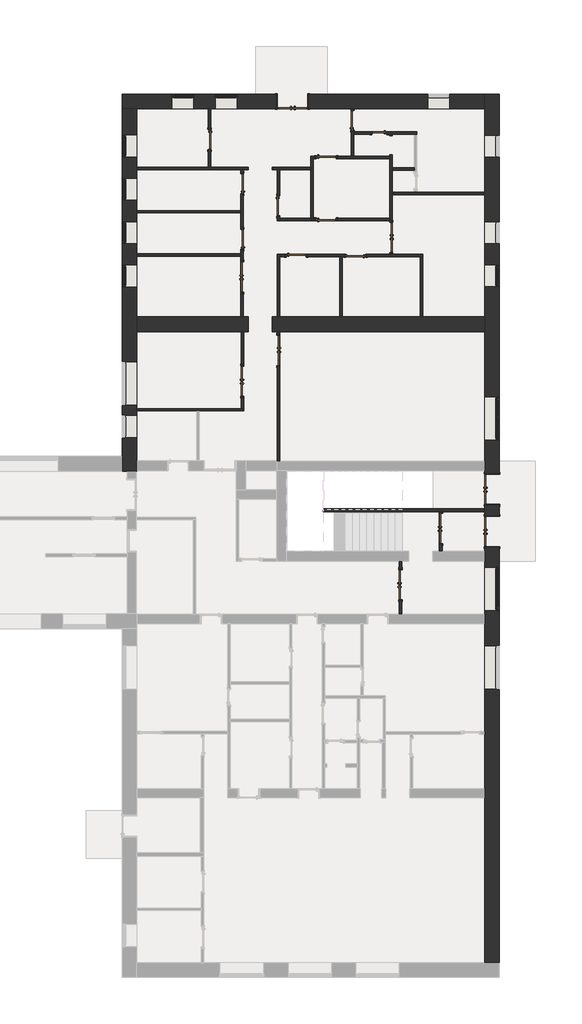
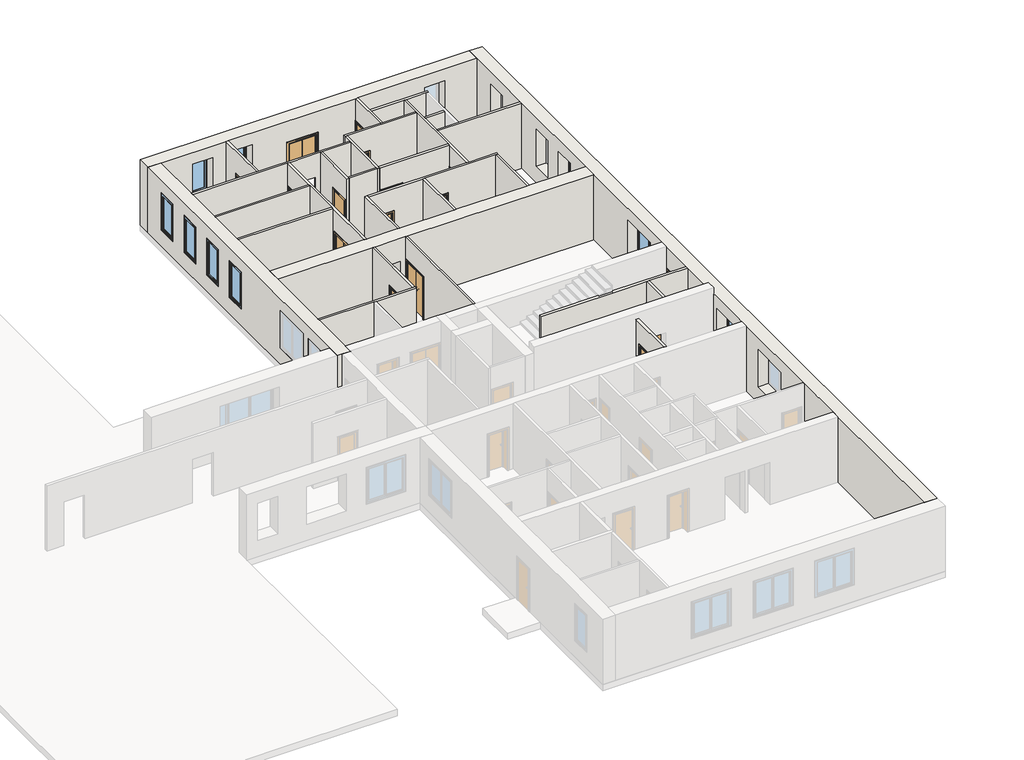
# One storey, part 5 of 10: 29 walls, 19 doors, 9 windows.
"""IFC4 building model written with IfcOpenShell, lengths in millimetres."""

from ifc_helpers import new_model, si_unit, frame, origin, origin_with_axes, place, context, project, spatial, polyline, outline, extrude, faceted_brep, transform, mapped, element, save
from components import door_6cda5d05, door_47037448, door_87bbec6c, door_70e842ad, door_8e506e8c, door_71a0a05f, door_2465b851, window_825c4489, window_630a9bb4, window_74172d11, window_310a172f

model = new_model("IFC4")

# Units and contexts
model_context = context("Model", 3, world=origin())
ifc_project = project(units=[si_unit("LENGTHUNIT", "METRE", prefix="MILLI")], contexts=[model_context])

# Site, building, storey
site = spatial("IfcSite", under=ifc_project)
building = spatial("IfcBuilding", under=site)
storey = spatial("IfcBuildingStorey", under=building, Name="1 этаж", Elevation=0.0)

# Doors
placement = place(None, origin())
door_shape = door_6cda5d05(model_context)
element("IfcDoor", 1, ObjectType="Наружная дверь 2-Навесная - Один проем наружу с порогом - 31173-2003 : ДСН ДКН М2 2100-1300 ГОСТ 31173-2003", at=placement, inside=storey, context=model_context, shape_type="MappedRepresentation", body=[
    mapped(door_shape, transform((16520.1759979, 1454.6370105, 0.0), x_axis=(0.0, -1.0, 0.0), y_axis=(1.0, 0.0, 0.0), z_axis=(0.0, 0.0, 1.0))),
])
element("IfcDoor", 2, ObjectType="Наружная дверь 2-Навесная - Один проем наружу с порогом - 31173-2003 : ДСН ДКН М2 2100-1300 ГОСТ 31173-2003", at=placement, inside=storey, context=model_context, shape_type="MappedRepresentation", body=[
    mapped(door_shape, transform((18215.1759979, 3817.1370105, 0.0), x_axis=(0.0, -1.0, 0.0), y_axis=(1.0, 0.0, 0.0), z_axis=(0.0, 0.0, 1.0))),
])
door_2_shape = door_47037448(model_context)
element("IfcDoor", 3, ObjectType="Наружная дверь 2-Навесная - Один проем наружу с порогом - 31173-2003 : ДСН ДКН М2 2100-1300 ГОСТ 31173-2003", at=placement, inside=storey, context=model_context, shape_type="MappedRepresentation", body=[
    mapped(door_2_shape, transform((20362.6759979, 3685.8870105, 0.0), x_axis=(0.0, -1.0, 0.0), y_axis=(1.0, 0.0, 0.0), z_axis=(0.0, 0.0, 1.0))),
])
element("IfcDoor", 4, ObjectType="Наружная дверь 2-Навесная - Один проем наружу с порогом - 31173-2003 : ДСН ДКН М2 2100-1300 ГОСТ 31173-2003", at=placement, inside=storey, context=model_context, shape_type="MappedRepresentation", body=[
    mapped(door_2_shape, transform((20362.6759979, 5457.1370105, 0.0), x_axis=(0.0, -1.0, 0.0), y_axis=(1.0, 0.0, 0.0), z_axis=(0.0, 0.0, 1.0))),
])
element("IfcDoor", 5, ObjectType="Наружная дверь 2-Навесная - Один проем наружу с порогом - 31173-2003 : ДСН ДКН М2 2100-1300 ГОСТ 31173-2003", at=placement, inside=storey, context=model_context, shape_type="MappedRepresentation", body=[
    mapped(door_2_shape, transform((11987.6759979, 21729.6370105, 0.0), x_axis=(1.0, 0.0, 0.0), y_axis=(0.0, 1.0, 0.0), z_axis=(0.0, 0.0, 1.0))),
])
door_3_shape = door_87bbec6c(model_context)
element("IfcDoor", 6, ObjectType="Внутренняя дверь 1-Навесная - 6629-88 : ДГ 21-7  ГОСТ 6629-88", at=placement, inside=storey, context=model_context, shape_type="MappedRepresentation", body=[
    mapped(door_3_shape, transform((15627.6759979, 20404.6370105, 0.0), x_axis=(-1.0, 0.0, 0.0), y_axis=(0.0, -1.0, 0.0), z_axis=(0.0, 0.0, 1.0))),
])
door_4_shape = door_70e842ad(model_context)
element("IfcDoor", 7, ObjectType="Внутренняя дверь 1-Навесная - 6629-88 : ДГ 21-9Л  ГОСТ 6629-88", at=placement, inside=storey, context=model_context, shape_type="MappedRepresentation", body=[
    mapped(door_4_shape, transform((12147.6759979, 15264.6370105, 0.0), x_axis=(-1.0, 0.0, 0.0), y_axis=(0.0, -1.0, 0.0), z_axis=(0.0, 0.0, 1.0))),
])
element("IfcDoor", 8, ObjectType="Внутренняя дверь 1-Навесная - 6629-88 : ДГ 21-9Л  ГОСТ 6629-88", at=placement, inside=storey, context=model_context, shape_type="MappedRepresentation", body=[
    mapped(door_4_shape, transform((14647.6759979, 15264.6370105, 0.0), x_axis=(1.0, 0.0, 0.0), y_axis=(0.0, 1.0, 0.0), z_axis=(0.0, 0.0, 1.0))),
])
element("IfcDoor", 9, ObjectType="Внутренняя дверь 1-Навесная - 6629-88 : ДГ 21-9Л  ГОСТ 6629-88", at=placement, inside=storey, context=model_context, shape_type="MappedRepresentation", body=[
    mapped(door_4_shape, transform((13407.6759979, 19384.6370105, 0.0), x_axis=(-1.0, 0.0, 0.0), y_axis=(0.0, -1.0, 0.0), z_axis=(0.0, 0.0, 1.0))),
])
door_5_shape = door_8e506e8c(model_context)
element("IfcDoor", 10, ObjectType="Внутренняя дверь 1-Навесная - 6629-88 : ДГ 21-9Л  ГОСТ 6629-88", at=placement, inside=storey, context=model_context, shape_type="MappedRepresentation", body=[
    mapped(door_5_shape, transform((13407.6759979, 16784.6370105, 0.0), x_axis=(-1.0, 0.0, 0.0), y_axis=(0.0, -1.0, 0.0), z_axis=(0.0, 0.0, 1.0))),
])
element("IfcDoor", 11, ObjectType="Внутренняя дверь 1-Навесная - 6629-88 : ДГ 21-9Л  ГОСТ 6629-88", at=placement, inside=storey, context=model_context, shape_type="MappedRepresentation", body=[
    mapped(door_5_shape, transform((11397.6759979, 17344.6370105, 0.0), x_axis=(0.0, 1.0, 0.0), y_axis=(-1.0, 0.0, 0.0), z_axis=(0.0, 0.0, 1.0))),
])
element("IfcDoor", 12, ObjectType="Внутренняя дверь 1-Навесная - 6629-88 : ДГ 21-9Л  ГОСТ 6629-88", at=placement, inside=storey, context=model_context, shape_type="MappedRepresentation", body=[
    mapped(door_5_shape, transform((9877.6759979, 18284.6370105, 0.0), x_axis=(0.0, -1.0, 0.0), y_axis=(1.0, 0.0, 0.0), z_axis=(0.0, 0.0, 1.0))),
])
element("IfcDoor", 13, ObjectType="Внутренняя дверь 1-Навесная - 6629-88 : ДГ 21-9Л  ГОСТ 6629-88", at=placement, inside=storey, context=model_context, shape_type="MappedRepresentation", body=[
    mapped(door_5_shape, transform((9877.6759979, 15944.6370105, 0.0), x_axis=(0.0, -1.0, 0.0), y_axis=(1.0, 0.0, 0.0), z_axis=(0.0, 0.0, 1.0))),
])
door_6_shape = door_71a0a05f(model_context)
element("IfcDoor", 14, ObjectType="Внутренняя дверь 1-Навесная - 6629-88 : ДГ 21-9  ГОСТ 6629-88", at=placement, inside=storey, context=model_context, shape_type="MappedRepresentation", body=[
    mapped(door_6_shape, transform((14507.6759979, 20944.6370105, 0.0), x_axis=(0.0, 1.0, 0.0), y_axis=(-1.0, 0.0, 0.0), z_axis=(0.0, 0.0, 1.0))),
])
element("IfcDoor", 15, ObjectType="Внутренняя дверь 1-Навесная - 6629-88 : ДГ 21-9  ГОСТ 6629-88", at=placement, inside=storey, context=model_context, shape_type="MappedRepresentation", body=[
    mapped(door_6_shape, transform((8507.6759979, 20124.6370105, 0.0), x_axis=(0.0, -1.0, 0.0), y_axis=(1.0, 0.0, 0.0), z_axis=(0.0, 0.0, 1.0))),
])
door_7_shape = door_2465b851(model_context)
element("IfcDoor", 16, ObjectType="Наружная дверь 2-Навесная - Один проем наружу с порогом - 31173-2003 : ДСН ДКН М2 2100-1300 ГОСТ 31173-2003", at=placement, inside=storey, context=model_context, shape_type="MappedRepresentation", body=[
    mapped(door_7_shape, transform((11397.6759979, 11284.6370105, 0.0), x_axis=(0.0, 1.0, 0.0), y_axis=(-1.0, 0.0, 0.0), z_axis=(0.0, 0.0, 1.0))),
])
element("IfcDoor", 17, ObjectType="Наружная дверь 2-Навесная - Один проем наружу с порогом - 31173-2003 : ДСН ДКН М2 2100-1300 ГОСТ 31173-2003", at=placement, inside=storey, context=model_context, shape_type="MappedRepresentation", body=[
    mapped(door_7_shape, transform((9887.6759979, 9994.6370105, 0.0), x_axis=(0.0, -1.0, 0.0), y_axis=(1.0, 0.0, 0.0), z_axis=(0.0, 0.0, 1.0))),
])
element("IfcDoor", 18, ObjectType="Наружная дверь 2-Навесная - Один проем наружу с порогом - 31173-2003 : ДСН ДКН М2 2100-1300 ГОСТ 31173-2003", at=placement, inside=storey, context=model_context, shape_type="MappedRepresentation", body=[
    mapped(door_7_shape, transform((9877.6759979, 14364.6370105, 0.0), x_axis=(0.0, -1.0, 0.0), y_axis=(1.0, 0.0, 0.0), z_axis=(0.0, 0.0, 1.0))),
])
element("IfcDoor", 19, ObjectType="Наружная дверь 2-Навесная - Один проем наружу с порогом - 31173-2003 : ДСН ДКН М2 2100-1300 ГОСТ 31173-2003", at=placement, inside=storey, context=model_context, shape_type="MappedRepresentation", body=[
    mapped(door_7_shape, transform((16127.6759979, 16024.6370105, 0.0), x_axis=(0.0, 1.0, 0.0), y_axis=(-1.0, 0.0, 0.0), z_axis=(0.0, 0.0, 1.0))),
])

# Walls
element("IfcWall", 20, ObjectType="ADSK_Внутренняя_Кирпич_610", at=placement, inside=storey, context=model_context, shape_type="Brep", body=[
    faceted_brep([(20667.6759979, -14415.3629895, 3200.0), (20667.6759979, -14415.3629895, 0.0), (20667.6759979, 3015.8870105, 0.0), (20667.6759979, 3015.8870105, 2120.0), (20667.6759979, 4355.8870105, 2120.0), (20667.6759979, 4355.8870105, 0.0), (20667.6759979, 4787.1370105, 0.0), (20667.6759979, 4787.1370105, 2120.0), (20667.6759979, 6127.1370105, 2120.0), (20667.6759979, 6127.1370105, 0.0), (20667.6759979, 22034.6370105, 0.0), (20667.6759979, 22034.6370105, 3200.0), (20667.6759979, 19384.6370105, 800.0), (20667.6759979, 19384.6370105, 2620.0), (20667.6759979, 20314.6370105, 2620.0), (20667.6759979, 20314.6370105, 800.0), (20667.6759979, 15749.6370105, 800.0), (20667.6759979, 15749.6370105, 2620.0), (20667.6759979, 16679.6370105, 2620.0), (20667.6759979, 16679.6370105, 800.0), (20667.6759979, 13949.6370105, 800.0), (20667.6759979, 13949.6370105, 2620.0), (20667.6759979, 14879.6370105, 2620.0), (20667.6759979, 14879.6370105, 800.0), (20667.6759979, 9349.6370105, 800.0), (20667.6759979, 7519.6370105, 800.0), (20667.6759979, 7519.6370105, 2620.0), (20667.6759979, 9349.6370105, 2620.0), (20667.6759979, 359.6370105, 800.0), (20667.6759979, 359.6370105, 2620.0), (20667.6759979, 2189.6370105, 2620.0), (20667.6759979, 2189.6370105, 800.0), (20667.6759979, -2940.3629895, 800.0), (20667.6759979, -2940.3629895, 2620.0), (20667.6759979, -1110.3629895, 2620.0), (20667.6759979, -1110.3629895, 800.0), (20057.6759979, -14415.3629895, 0.0), (20057.6759979, -14415.3629895, 3200.0), (20057.6759979, -7495.3629895, 3200.0), (20057.6759979, -7115.3629895, 3200.0), (20057.6759979, -4815.3629895, 3200.0), (20057.6759979, -4715.3629895, 3200.0), (20057.6759979, -175.3629895, 3200.0), (20057.6759979, 204.6370105, 3200.0), (20057.6759979, 4519.5648158, 3200.0), (20057.6759979, 4644.5648158, 3200.0), (20057.6759979, 6244.6370105, 3200.0), (20057.6759979, 6624.6370105, 3200.0), (20057.6759979, 12064.6370105, 3200.0), (20057.6759979, 12704.6370105, 3200.0), (20057.6759979, 17824.6370105, 3200.0), (20057.6759979, 17924.6370105, 3200.0), (20057.6759979, 21424.6370105, 3200.0), (20057.6759979, 22034.6370105, 3200.0), (20057.6759979, 22034.6370105, 0.0), (20057.6759979, 21424.6370105, 0.0), (20057.6759979, 17924.6370105, 0.0), (20057.6759979, 17824.6370105, 0.0), (20057.6759979, 12704.6370105, 0.0), (20057.6759979, 12064.6370105, 0.0), (20057.6759979, 6624.6370105, 0.0), (20057.6759979, 6244.6370105, 0.0), (20057.6759979, 6127.1370105, 0.0), (20057.6759979, 6127.1370105, 2120.0), (20057.6759979, 4787.1370105, 2120.0), (20057.6759979, 4787.1370105, 0.0), (20057.6759979, 4644.5648158, 0.0), (20057.6759979, 4519.5648158, 0.0), (20057.6759979, 4355.8870105, 0.0), (20057.6759979, 4355.8870105, 2120.0), (20057.6759979, 3015.8870105, 2120.0), (20057.6759979, 3015.8870105, 0.0), (20057.6759979, 2864.6370105, 0.0), (20057.6759979, 2444.6370105, 0.0), (20057.6759979, 204.6370105, 0.0), (20057.6759979, -175.3629895, 0.0), (20057.6759979, -4715.3629895, 0.0), (20057.6759979, -4815.3629895, 0.0), (20057.6759979, -7115.3629895, 0.0), (20057.6759979, -7495.3629895, 0.0), (20057.6759979, 19384.6370105, 800.0), (20057.6759979, 20314.6370105, 800.0), (20057.6759979, 20314.6370105, 2620.0), (20057.6759979, 19384.6370105, 2620.0), (20057.6759979, 15749.6370105, 800.0), (20057.6759979, 16679.6370105, 800.0), (20057.6759979, 16679.6370105, 2620.0), (20057.6759979, 15749.6370105, 2620.0), (20057.6759979, 13949.6370105, 800.0), (20057.6759979, 14879.6370105, 800.0), (20057.6759979, 14879.6370105, 2620.0), (20057.6759979, 13949.6370105, 2620.0), (20057.6759979, 9349.6370105, 800.0), (20057.6759979, 9349.6370105, 2620.0), (20057.6759979, 7519.6370105, 2620.0), (20057.6759979, 7519.6370105, 800.0), (20057.6759979, 359.6370105, 800.0), (20057.6759979, 2189.6370105, 800.0), (20057.6759979, 2189.6370105, 2620.0), (20057.6759979, 359.6370105, 2620.0), (20057.6759979, -2940.3629895, 800.0), (20057.6759979, -1110.3629895, 800.0), (20057.6759979, -1110.3629895, 2620.0), (20057.6759979, -2940.3629895, 2620.0)], [[[0, 1, 2, 3, 4, 5, 6, 7, 8, 9, 10, 11], [12, 13, 14, 15], [16, 17, 18, 19], [20, 21, 22, 23], [24, 25, 26, 27], [28, 29, 30, 31], [32, 33, 34, 35]], [[36, 37, 38, 39, 40, 41, 42, 43, 44, 45, 46, 47, 48, 49, 50, 51, 52, 53, 54, 55, 56, 57, 58, 59, 60, 61, 62, 63, 64, 65, 66, 67, 68, 69, 70, 71, 72, 73, 74, 75, 76, 77, 78, 79], [80, 81, 82, 83], [84, 85, 86, 87], [88, 89, 90, 91], [92, 93, 94, 95], [96, 97, 98, 99], [100, 101, 102, 103]], [[1, 36, 79, 78, 77, 76, 75, 74, 73, 72, 71, 2]], [[54, 10, 9, 62, 61, 60, 59, 58, 57, 56, 55]], [[5, 68, 67, 66, 65, 6]], [[1, 0, 37, 36]], [[11, 10, 54, 53]], [[70, 3, 2, 71]], [[3, 70, 69, 4]], [[4, 69, 68, 5]], [[64, 7, 6, 65]], [[7, 64, 63, 8]], [[8, 63, 62, 9]], [[13, 12, 80, 83]], [[14, 13, 83, 82]], [[15, 14, 82, 81]], [[12, 15, 81, 80]], [[17, 16, 84, 87]], [[18, 17, 87, 86]], [[19, 18, 86, 85]], [[16, 19, 85, 84]], [[21, 20, 88, 91]], [[22, 21, 91, 90]], [[23, 22, 90, 89]], [[20, 23, 89, 88]], [[93, 92, 24, 27]], [[94, 93, 27, 26]], [[95, 94, 26, 25]], [[92, 95, 25, 24]], [[29, 28, 96, 99]], [[30, 29, 99, 98]], [[31, 30, 98, 97]], [[28, 31, 97, 96]], [[33, 32, 100, 103]], [[34, 33, 103, 102]], [[35, 34, 102, 101]], [[32, 35, 101, 100]], [[11, 53, 52, 51, 50, 49, 48, 47, 46, 45, 44, 43, 42, 41, 40, 39, 38, 37, 0]]]),
])
element("IfcWall", 21, ObjectType="ADSK_Внутренняя_Кирпич_610", at=placement, inside=storey, context=model_context, shape_type="Brep", body=[
    faceted_brep([(20057.6759979, 22034.6370105, 3200.0), (20057.6759979, 22034.6370105, 0.0), (12657.6759979, 22034.6370105, 0.0), (12657.6759979, 22034.6370105, 2120.0), (11317.6759979, 22034.6370105, 2120.0), (11317.6759979, 22034.6370105, 0.0), (4837.6759979, 22034.6370105, 0.0), (4837.6759979, 22034.6370105, 3200.0), (18587.6759979, 22034.6370105, 800.0), (18587.6759979, 22034.6370105, 2620.0), (17657.6759979, 22034.6370105, 2620.0), (17657.6759979, 22034.6370105, 800.0), (8742.6759979, 22034.6370105, 800.0), (9672.6759979, 22034.6370105, 800.0), (9672.6759979, 22034.6370105, 2620.0), (8742.6759979, 22034.6370105, 2620.0), (6922.6759979, 22034.6370105, 800.0), (7852.6759979, 22034.6370105, 800.0), (7852.6759979, 22034.6370105, 2620.0), (6922.6759979, 22034.6370105, 2620.0), (20057.6759979, 21424.6370105, 0.0), (20057.6759979, 21424.6370105, 3200.0), (14557.6759979, 21424.6370105, 3200.0), (14457.6759979, 21424.6370105, 3200.0), (8557.6759979, 21424.6370105, 3200.0), (8457.6759979, 21424.6370105, 3200.0), (5447.6759979, 21424.6370105, 3200.0), (4837.6759979, 21424.6370105, 3200.0), (4837.6759979, 21424.6370105, 0.0), (5447.6759979, 21424.6370105, 0.0), (8457.6759979, 21424.6370105, 0.0), (8557.6759979, 21424.6370105, 0.0), (11317.6759979, 21424.6370105, 0.0), (11317.6759979, 21424.6370105, 2120.0), (12657.6759979, 21424.6370105, 2120.0), (12657.6759979, 21424.6370105, 0.0), (14457.6759979, 21424.6370105, 0.0), (14557.6759979, 21424.6370105, 0.0), (18587.6759979, 21424.6370105, 800.0), (17657.6759979, 21424.6370105, 800.0), (17657.6759979, 21424.6370105, 2620.0), (18587.6759979, 21424.6370105, 2620.0), (8742.6759979, 21424.6370105, 800.0), (8742.6759979, 21424.6370105, 2620.0), (9672.6759979, 21424.6370105, 2620.0), (9672.6759979, 21424.6370105, 800.0), (6922.6759979, 21424.6370105, 800.0), (6922.6759979, 21424.6370105, 2620.0), (7852.6759979, 21424.6370105, 2620.0), (7852.6759979, 21424.6370105, 800.0)], [[[0, 1, 2, 3, 4, 5, 6, 7], [8, 9, 10, 11], [12, 13, 14, 15], [16, 17, 18, 19]], [[20, 21, 22, 23, 24, 25, 26, 27, 28, 29, 30, 31, 32, 33, 34, 35, 36, 37], [38, 39, 40, 41], [42, 43, 44, 45], [46, 47, 48, 49]], [[1, 20, 37, 36, 35, 2]], [[28, 6, 5, 32, 31, 30, 29]], [[1, 0, 21, 20]], [[7, 6, 28, 27]], [[34, 3, 2, 35]], [[3, 34, 33, 4]], [[4, 33, 32, 5]], [[9, 8, 38, 41]], [[10, 9, 41, 40]], [[11, 10, 40, 39]], [[8, 11, 39, 38]], [[43, 42, 12, 15]], [[44, 43, 15, 14]], [[45, 44, 14, 13]], [[42, 45, 13, 12]], [[47, 46, 16, 19]], [[48, 47, 19, 18]], [[49, 48, 18, 17]], [[46, 49, 17, 16]], [[0, 7, 27, 26, 25, 24, 23, 22, 21]]]),
])
element("IfcWall", 22, ObjectType="ADSK_Внутренняя_Кирпич_610", at=placement, inside=storey, context=model_context, shape_type="Brep", body=[
    faceted_brep([(4837.6759979, 21424.6370105, 0.0), (4837.6759979, 6834.6370105, 0.0), (4837.6759979, 6224.6370105, 0.0), (4837.6759979, 6224.6370105, 3200.0), (4837.6759979, 6834.6370105, 3200.0), (4837.6759979, 21424.6370105, 3200.0), (4837.6759979, 19399.6370105, 800.0), (4837.6759979, 20329.6370105, 800.0), (4837.6759979, 20329.6370105, 2620.0), (4837.6759979, 19399.6370105, 2620.0), (4837.6759979, 18509.6370105, 800.0), (4837.6759979, 18509.6370105, 2620.0), (4837.6759979, 17579.6370105, 2620.0), (4837.6759979, 17579.6370105, 800.0), (4837.6759979, 16689.6370105, 800.0), (4837.6759979, 16689.6370105, 2620.0), (4837.6759979, 15759.6370105, 2620.0), (4837.6759979, 15759.6370105, 800.0), (4837.6759979, 13939.6370105, 800.0), (4837.6759979, 14869.6370105, 800.0), (4837.6759979, 14869.6370105, 2620.0), (4837.6759979, 13939.6370105, 2620.0), (4837.6759979, 8559.6370105, 800.0), (4837.6759979, 8559.6370105, 2620.0), (4837.6759979, 7629.6370105, 2620.0), (4837.6759979, 7629.6370105, 800.0), (4837.6759979, 10809.6370105, 800.0), (4837.6759979, 10809.6370105, 2620.0), (4837.6759979, 8979.6370105, 2620.0), (4837.6759979, 8979.6370105, 800.0), (5447.6759979, 21424.6370105, 0.0), (5447.6759979, 21424.6370105, 3200.0), (5447.6759979, 18974.6370105, 3200.0), (5447.6759979, 18874.6370105, 3200.0), (5447.6759979, 17154.6370105, 3200.0), (5447.6759979, 17054.6370105, 3200.0), (5447.6759979, 15334.6370105, 3200.0), (5447.6759979, 15234.6370105, 3200.0), (5447.6759979, 12704.6370105, 3200.0), (5447.6759979, 12064.6370105, 3200.0), (5447.6759979, 8844.6370105, 3200.0), (5447.6759979, 8744.6370105, 3200.0), (5447.6759979, 6644.6370105, 3200.0), (5447.6759979, 6244.6370105, 3200.0), (5447.6759979, 6224.6370105, 3200.0), (5447.6759979, 6224.6370105, 0.0), (5447.6759979, 6244.6370105, 0.0), (5447.6759979, 6644.6370105, 0.0), (5447.6759979, 8744.6370105, 0.0), (5447.6759979, 8844.6370105, 0.0), (5447.6759979, 12064.6370105, 0.0), (5447.6759979, 12704.6370105, 0.0), (5447.6759979, 15234.6370105, 0.0), (5447.6759979, 15334.6370105, 0.0), (5447.6759979, 17054.6370105, 0.0), (5447.6759979, 17154.6370105, 0.0), (5447.6759979, 18874.6370105, 0.0), (5447.6759979, 18974.6370105, 0.0), (5447.6759979, 19399.6370105, 800.0), (5447.6759979, 19399.6370105, 2620.0), (5447.6759979, 20329.6370105, 2620.0), (5447.6759979, 20329.6370105, 800.0), (5447.6759979, 18509.6370105, 800.0), (5447.6759979, 17579.6370105, 800.0), (5447.6759979, 17579.6370105, 2620.0), (5447.6759979, 18509.6370105, 2620.0), (5447.6759979, 16689.6370105, 800.0), (5447.6759979, 15759.6370105, 800.0), (5447.6759979, 15759.6370105, 2620.0), (5447.6759979, 16689.6370105, 2620.0), (5447.6759979, 13939.6370105, 800.0), (5447.6759979, 13939.6370105, 2620.0), (5447.6759979, 14869.6370105, 2620.0), (5447.6759979, 14869.6370105, 800.0), (5447.6759979, 8559.6370105, 800.0), (5447.6759979, 7629.6370105, 800.0), (5447.6759979, 7629.6370105, 2620.0), (5447.6759979, 8559.6370105, 2620.0), (5447.6759979, 10809.6370105, 800.0), (5447.6759979, 8979.6370105, 800.0), (5447.6759979, 8979.6370105, 2620.0), (5447.6759979, 10809.6370105, 2620.0), (5427.6759979, 6224.6370105, 0.0), (5047.6759979, 6224.6370105, 0.0), (5427.6759979, 6224.6370105, 3200.0), (5047.6759979, 6224.6370105, 3200.0)], [[[0, 1, 2, 3, 4, 5], [6, 7, 8, 9], [10, 11, 12, 13], [14, 15, 16, 17], [18, 19, 20, 21], [22, 23, 24, 25], [26, 27, 28, 29]], [[30, 31, 32, 33, 34, 35, 36, 37, 38, 39, 40, 41, 42, 43, 44, 45, 46, 47, 48, 49, 50, 51, 52, 53, 54, 55, 56, 57], [58, 59, 60, 61], [62, 63, 64, 65], [66, 67, 68, 69], [70, 71, 72, 73], [74, 75, 76, 77], [78, 79, 80, 81]], [[2, 1, 0, 30, 57, 56, 55, 54, 53, 52, 51, 50, 49, 48, 47, 46, 45, 82, 83]], [[0, 5, 31, 30]], [[3, 2, 83, 82, 45, 44, 84, 85]], [[59, 58, 6, 9]], [[60, 59, 9, 8]], [[61, 60, 8, 7]], [[58, 61, 7, 6]], [[11, 10, 62, 65]], [[12, 11, 65, 64]], [[13, 12, 64, 63]], [[10, 13, 63, 62]], [[15, 14, 66, 69]], [[16, 15, 69, 68]], [[17, 16, 68, 67]], [[14, 17, 67, 66]], [[71, 70, 18, 21]], [[72, 71, 21, 20]], [[73, 72, 20, 19]], [[70, 73, 19, 18]], [[23, 22, 74, 77]], [[24, 23, 77, 76]], [[25, 24, 76, 75]], [[22, 25, 75, 74]], [[27, 26, 78, 81]], [[28, 27, 81, 80]], [[29, 28, 80, 79]], [[26, 29, 79, 78]], [[5, 4, 3, 85, 84, 44, 43, 42, 41, 40, 39, 38, 37, 36, 35, 34, 33, 32, 31]]]),
])
element("IfcWall", 23, ObjectType="ADSK_Внутренняя_Перегородка_75_25x2", at=placement, inside=storey, context=model_context, shape_type="SweptSolid", body=[
    extrude(outline(polyline([(2444.6370105, 3200.0), (2444.6370105, 0.0), (2124.6370105, 0.0), (2124.6370105, 2120.0), (784.6370105, 2120.0), (784.6370105, 0.0), (204.6370105, 0.0), (204.6370105, 3200.0), (2444.6370105, 3200.0)])), frame((16457.6759979, 0.0, 0.0), z_axis=(1.0, 0.0, 0.0), x_axis=(0.0, 1.0, 0.0)), (0.0, 0.0, 1.0), 125.0),
])
element("IfcWall", 24, ObjectType="ADSK_Внутренняя_Перегородка_125", at=placement, inside=storey, context=model_context, shape_type="SweptSolid", body=[
    extrude(outline(polyline([(2864.6370105, 0.0), (2864.6370105, 3200.0), (4519.5648158, 3200.0), (4519.5648158, 0.0), (4487.1370105, 0.0), (4487.1370105, 2120.0), (3147.1370105, 2120.0), (3147.1370105, 0.0), (2864.6370105, 0.0)])), frame((18152.6759979, 0.0, 0.0), z_axis=(1.0, 0.0, 0.0), x_axis=(0.0, 1.0, 0.0)), (0.0, 0.0, 1.0), 125.0),
])
element("IfcWall", 25, ObjectType="ADSK_Внутренняя_Перегородка_125", at=placement, inside=storey, context=model_context, shape_type="Brep", body=[
    faceted_brep([(20057.6759979, 4644.5648158, 0.0), (13288.3708722, 4644.5648158, 0.0), (13288.3708722, 4644.5648158, 3200.0), (16582.6759979, 4644.5648158, 3200.0), (20057.6759979, 4644.5648158, 3200.0), (20057.6759979, 4519.5648158, 0.0), (20057.6759979, 4519.5648158, 3200.0), (18277.6759979, 4519.5648158, 3200.0), (18152.6759979, 4519.5648158, 3200.0), (16582.6759979, 4519.5648158, 3200.0), (13288.3708722, 4519.5648158, 3200.0), (13288.3708722, 4519.5648158, 0.0), (18152.6759979, 4519.5648158, 0.0), (18277.6759979, 4519.5648158, 0.0)], [[[0, 1, 2, 3, 4]], [[5, 6, 7, 8, 9, 10, 11, 12, 13]], [[1, 0, 5, 13, 12, 11]], [[2, 1, 11, 10]], [[0, 4, 6, 5]], [[3, 2, 10, 9]], [[4, 3, 9, 8, 7, 6]]]),
])
element("IfcWall", 26, ObjectType="ADSK_Внутренняя_Перегородка_100", at=placement, inside=storey, context=model_context, shape_type="Brep", body=[
    faceted_brep([(5447.6759979, 8744.6370105, 0.0), (7977.7887319, 8744.6370105, 0.0), (8077.7887319, 8744.6370105, 0.0), (9937.6759979, 8744.6370105, 0.0), (9937.6759979, 8744.6370105, 3200.0), (8077.7887319, 8744.6370105, 3200.0), (7977.7887319, 8744.6370105, 3200.0), (5447.6759979, 8744.6370105, 3200.0), (5447.6759979, 8844.6370105, 0.0), (5447.6759979, 8844.6370105, 3200.0), (9837.6759979, 8844.6370105, 3200.0), (9937.6759979, 8844.6370105, 3200.0), (9937.6759979, 8844.6370105, 0.0), (9837.6759979, 8844.6370105, 0.0)], [[[0, 1, 2, 3, 4, 5, 6, 7]], [[8, 9, 10, 11, 12, 13]], [[3, 2, 1, 0, 8, 13, 12]], [[0, 7, 9, 8]], [[4, 3, 12, 11]], [[7, 6, 5, 4, 11, 10, 9]]]),
])
element("IfcWall", 27, ObjectType="ADSK_Внутренняя_Перегородка_100", at=placement, inside=storey, context=model_context, shape_type="SweptSolid", body=[
    extrude(outline(polyline([(8844.6370105, 0.0), (8844.6370105, 3200.0), (12064.6370105, 3200.0), (12064.6370105, 0.0), (10664.6370105, 0.0), (10664.6370105, 2120.0), (9324.6370105, 2120.0), (9324.6370105, 0.0), (8844.6370105, 0.0)])), frame((9837.6759979, 0.0, 0.0), z_axis=(1.0, 0.0, 0.0), x_axis=(0.0, 1.0, 0.0)), (0.0, 0.0, 1.0), 100.0),
])
element("IfcWall", 28, ObjectType="ADSK_Внутренняя_Перегородка_100", at=placement, inside=storey, context=model_context, shape_type="SweptSolid", body=[
    extrude(outline(polyline([(6624.6370105, 0.0), (6624.6370105, 3200.0), (12064.6370105, 3200.0), (12064.6370105, 0.0), (11954.6370105, 0.0), (11954.6370105, 2120.0), (10614.6370105, 2120.0), (10614.6370105, 0.0), (6624.6370105, 0.0)])), frame((11347.6759979, 0.0, 0.0), z_axis=(1.0, 0.0, 0.0), x_axis=(0.0, 1.0, 0.0)), (0.0, 0.0, 1.0), 100.0),
])
element("IfcWall", 29, ObjectType="ADSK_Внутренняя_Перегородка_100", at=placement, inside=storey, context=model_context, shape_type="Brep", body=[
    faceted_brep([(11457.6759979, 12704.6370105, 0.0), (11457.6759979, 15214.6370105, 0.0), (11457.6759979, 15314.6370105, 0.0), (11457.6759979, 15314.6370105, 3200.0), (11457.6759979, 15214.6370105, 3200.0), (11457.6759979, 12704.6370105, 3200.0), (11357.6759979, 12704.6370105, 0.0), (11357.6759979, 12704.6370105, 3200.0), (11357.6759979, 15314.6370105, 3200.0), (11357.6759979, 15314.6370105, 0.0)], [[[0, 1, 2, 3, 4, 5]], [[6, 7, 8, 9]], [[2, 1, 0, 6, 9]], [[3, 2, 9, 8]], [[0, 5, 7, 6]], [[5, 4, 3, 8, 7]]]),
])
element("IfcWall", 30, ObjectType="ADSK_Внутренняя_Перегородка_100", at=placement, inside=storey, context=model_context, shape_type="Brep", body=[
    faceted_brep([(11457.6759979, 15214.6370105, 3200.0), (11457.6759979, 15214.6370105, 0.0), (11692.6759979, 15214.6370105, 0.0), (11692.6759979, 15214.6370105, 2070.0), (12602.6759979, 15214.6370105, 2070.0), (12602.6759979, 15214.6370105, 0.0), (13977.6759979, 15214.6370105, 0.0), (14077.6759979, 15214.6370105, 0.0), (14192.6759979, 15214.6370105, 0.0), (14192.6759979, 15214.6370105, 2070.0), (15102.6759979, 15214.6370105, 2070.0), (15102.6759979, 15214.6370105, 0.0), (17347.6759979, 15214.6370105, 0.0), (17447.6759979, 15214.6370105, 0.0), (17447.6759979, 15214.6370105, 3200.0), (17347.6759979, 15214.6370105, 3200.0), (14077.6759979, 15214.6370105, 3200.0), (13977.6759979, 15214.6370105, 3200.0), (11457.6759979, 15314.6370105, 0.0), (11457.6759979, 15314.6370105, 3200.0), (16077.6759979, 15314.6370105, 3200.0), (16177.6759979, 15314.6370105, 3200.0), (17447.6759979, 15314.6370105, 3200.0), (17447.6759979, 15314.6370105, 0.0), (16177.6759979, 15314.6370105, 0.0), (16077.6759979, 15314.6370105, 0.0), (15102.6759979, 15314.6370105, 0.0), (15102.6759979, 15314.6370105, 2070.0), (14192.6759979, 15314.6370105, 2070.0), (14192.6759979, 15314.6370105, 0.0), (12602.6759979, 15314.6370105, 0.0), (12602.6759979, 15314.6370105, 2070.0), (11692.6759979, 15314.6370105, 2070.0), (11692.6759979, 15314.6370105, 0.0)], [[[0, 1, 2, 3, 4, 5, 6, 7, 8, 9, 10, 11, 12, 13, 14, 15, 16, 17]], [[18, 19, 20, 21, 22, 23, 24, 25, 26, 27, 28, 29, 30, 31, 32, 33]], [[1, 18, 33, 2]], [[23, 13, 12, 11, 26, 25, 24]], [[5, 30, 29, 8, 7, 6]], [[1, 0, 19, 18]], [[14, 13, 23, 22]], [[32, 3, 2, 33]], [[3, 32, 31, 4]], [[4, 31, 30, 5]], [[10, 27, 26, 11]], [[27, 10, 9, 28]], [[28, 9, 8, 29]], [[0, 17, 16, 15, 14, 22, 21, 20, 19]]]),
])
element("IfcWall", 31, ObjectType="ADSK_Внутренняя_Перегородка_100", at=placement, inside=storey, context=model_context, shape_type="SweptSolid", body=[
    extrude(outline(polyline([(17347.6759979, 12704.6370105), (17347.6759979, 15214.6370105), (17447.6759979, 15214.6370105), (17447.6759979, 12704.6370105), (17347.6759979, 12704.6370105)])), origin_with_axes(), (0.0, 0.0, 1.0), 3200.0),
])
element("IfcWall", 32, ObjectType="ADSK_Внутренняя_Перегородка_100", at=placement, inside=storey, context=model_context, shape_type="SweptSolid", body=[
    extrude(outline(polyline([(14077.6759979, 15214.6370105), (14077.6759979, 12704.6370105), (13977.6759979, 12704.6370105), (13977.6759979, 15214.6370105), (14077.6759979, 15214.6370105)])), origin_with_axes(), (0.0, 0.0, 1.0), 3200.0),
])
element("IfcWall", 33, ObjectType="ADSK_Внутренняя_Перегородка_100", at=placement, inside=storey, context=model_context, shape_type="Brep", body=[
    faceted_brep([(16177.6759979, 16694.6370105, 0.0), (16177.6759979, 17824.6370105, 0.0), (16177.6759979, 17924.6370105, 0.0), (16177.6759979, 18844.6370105, 0.0), (16177.6759979, 18944.6370105, 0.0), (16177.6759979, 19489.6370105, 0.0), (16177.6759979, 19489.6370105, 2070.0), (16177.6759979, 20299.6370105, 2070.0), (16177.6759979, 20299.6370105, 0.0), (16177.6759979, 20354.6370105, 0.0), (16177.6759979, 20354.6370105, 3200.0), (16177.6759979, 18944.6370105, 3200.0), (16177.6759979, 18844.6370105, 3200.0), (16177.6759979, 17924.6370105, 3200.0), (16177.6759979, 17824.6370105, 3200.0), (16177.6759979, 15314.6370105, 3200.0), (16177.6759979, 15314.6370105, 0.0), (16177.6759979, 15354.6370105, 0.0), (16177.6759979, 15354.6370105, 2120.0), (16177.6759979, 16694.6370105, 2120.0), (16077.6759979, 19489.6370105, 2070.0), (16077.6759979, 19489.6370105, 0.0), (16077.6759979, 19434.6370105, 0.0), (16077.6759979, 19334.6370105, 0.0), (16077.6759979, 16834.6370105, 0.0), (16077.6759979, 16734.6370105, 0.0), (16077.6759979, 16694.6370105, 0.0), (16077.6759979, 16694.6370105, 2120.0), (16077.6759979, 15354.6370105, 2120.0), (16077.6759979, 15354.6370105, 0.0), (16077.6759979, 15314.6370105, 0.0), (16077.6759979, 15314.6370105, 3200.0), (16077.6759979, 16734.6370105, 3200.0), (16077.6759979, 16834.6370105, 3200.0), (16077.6759979, 19334.6370105, 3200.0), (16077.6759979, 19434.6370105, 3200.0), (16077.6759979, 20354.6370105, 3200.0), (16077.6759979, 20354.6370105, 0.0), (16077.6759979, 20299.6370105, 0.0), (16077.6759979, 20299.6370105, 2070.0)], [[[0, 1, 2, 3, 4, 5, 6, 7, 8, 9, 10, 11, 12, 13, 14, 15, 16, 17, 18, 19]], [[20, 21, 22, 23, 24, 25, 26, 27, 28, 29, 30, 31, 32, 33, 34, 35, 36, 37, 38, 39]], [[16, 30, 29, 17]], [[38, 37, 9, 8]], [[26, 25, 24, 23, 22, 21, 5, 4, 3, 2, 1, 0]], [[16, 15, 31, 30]], [[10, 9, 37, 36]], [[19, 27, 26, 0]], [[27, 19, 18, 28]], [[28, 18, 17, 29]], [[15, 14, 13, 12, 11, 10, 36, 35, 34, 33, 32, 31]], [[8, 7, 39, 38]], [[6, 5, 21, 20]], [[7, 6, 20, 39]]]),
])
element("IfcWall", 34, ObjectType="ADSK_Внутренняя_Перегородка_100", at=placement, inside=storey, context=model_context, shape_type="Brep", body=[
    faceted_brep([(14557.6759979, 20454.6370105, 0.0), (14557.6759979, 20454.6370105, 3200.0), (17197.6759979, 20454.6370105, 3200.0), (17197.6759979, 20454.6370105, 0.0), (15982.6759979, 20454.6370105, 0.0), (15982.6759979, 20454.6370105, 2070.0), (15272.6759979, 20454.6370105, 2070.0), (15272.6759979, 20454.6370105, 0.0), (14557.6759979, 20354.6370105, 3200.0), (14557.6759979, 20354.6370105, 0.0), (15272.6759979, 20354.6370105, 0.0), (15272.6759979, 20354.6370105, 2070.0), (15982.6759979, 20354.6370105, 2070.0), (15982.6759979, 20354.6370105, 0.0), (16077.6759979, 20354.6370105, 0.0), (16177.6759979, 20354.6370105, 0.0), (17097.6759979, 20354.6370105, 0.0), (17197.6759979, 20354.6370105, 0.0), (17197.6759979, 20354.6370105, 3200.0), (17097.6759979, 20354.6370105, 3200.0), (16177.6759979, 20354.6370105, 3200.0), (16077.6759979, 20354.6370105, 3200.0)], [[[0, 1, 2, 3, 4, 5, 6, 7]], [[8, 9, 10, 11, 12, 13, 14, 15, 16, 17, 18, 19, 20, 21]], [[9, 0, 7, 10]], [[3, 17, 16, 15, 14, 13, 4]], [[1, 0, 9, 8]], [[3, 2, 18, 17]], [[6, 11, 10, 7]], [[11, 6, 5, 12]], [[12, 5, 4, 13]], [[2, 1, 8, 21, 20, 19, 18]]]),
])
element("IfcWall", 35, ObjectType="ADSK_Внутренняя_Перегородка_100", at=placement, inside=storey, context=model_context, shape_type="Brep", body=[
    faceted_brep([(14557.6759979, 21424.6370105, 0.0), (14557.6759979, 21424.6370105, 3200.0), (14557.6759979, 20454.6370105, 3200.0), (14557.6759979, 20354.6370105, 3200.0), (14557.6759979, 19434.6370105, 3200.0), (14557.6759979, 19434.6370105, 0.0), (14557.6759979, 20354.6370105, 0.0), (14557.6759979, 20454.6370105, 0.0), (14557.6759979, 20489.6370105, 0.0), (14557.6759979, 20489.6370105, 2070.0), (14557.6759979, 21399.6370105, 2070.0), (14557.6759979, 21399.6370105, 0.0), (14457.6759979, 21424.6370105, 3200.0), (14457.6759979, 21424.6370105, 0.0), (14457.6759979, 21399.6370105, 0.0), (14457.6759979, 21399.6370105, 2070.0), (14457.6759979, 20489.6370105, 2070.0), (14457.6759979, 20489.6370105, 0.0), (14457.6759979, 19434.6370105, 0.0), (14457.6759979, 19434.6370105, 3200.0)], [[[0, 1, 2, 3, 4, 5, 6, 7, 8, 9, 10, 11]], [[12, 13, 14, 15, 16, 17, 18, 19]], [[13, 0, 11, 14]], [[5, 18, 17, 8, 7, 6]], [[1, 0, 13, 12]], [[5, 4, 19, 18]], [[10, 15, 14, 11]], [[15, 10, 9, 16]], [[16, 9, 8, 17]], [[4, 3, 2, 1, 12, 19]]]),
])
element("IfcWall", 36, ObjectType="ADSK_Внутренняя_Перегородка_100", at=placement, inside=storey, context=model_context, shape_type="Brep", body=[
    faceted_brep([(16077.6759979, 19434.6370105, 3200.0), (16077.6759979, 19434.6370105, 0.0), (14557.6759979, 19434.6370105, 0.0), (14457.6759979, 19434.6370105, 0.0), (13862.6759979, 19434.6370105, 0.0), (13862.6759979, 19434.6370105, 2070.0), (12952.6759979, 19434.6370105, 2070.0), (12952.6759979, 19434.6370105, 0.0), (12757.6759979, 19434.6370105, 0.0), (12757.6759979, 19434.6370105, 3200.0), (14457.6759979, 19434.6370105, 3200.0), (14557.6759979, 19434.6370105, 3200.0), (16077.6759979, 19334.6370105, 0.0), (16077.6759979, 19334.6370105, 3200.0), (12857.6759979, 19334.6370105, 3200.0), (12757.6759979, 19334.6370105, 3200.0), (12757.6759979, 19334.6370105, 0.0), (12857.6759979, 19334.6370105, 0.0), (12952.6759979, 19334.6370105, 0.0), (12952.6759979, 19334.6370105, 2070.0), (13862.6759979, 19334.6370105, 2070.0), (13862.6759979, 19334.6370105, 0.0)], [[[0, 1, 2, 3, 4, 5, 6, 7, 8, 9, 10, 11]], [[12, 13, 14, 15, 16, 17, 18, 19, 20, 21]], [[1, 12, 21, 4, 3, 2]], [[16, 8, 7, 18, 17]], [[1, 0, 13, 12]], [[9, 8, 16, 15]], [[6, 19, 18, 7]], [[19, 6, 5, 20]], [[20, 5, 4, 21]], [[0, 11, 10, 9, 15, 14, 13]]]),
])
element("IfcWall", 37, ObjectType="ADSK_Внутренняя_Перегородка_100", at=placement, inside=storey, context=model_context, shape_type="Brep", body=[
    faceted_brep([(12757.6759979, 19334.6370105, 0.0), (12757.6759979, 18974.6370105, 0.0), (12757.6759979, 18874.6370105, 0.0), (12757.6759979, 16834.6370105, 0.0), (12757.6759979, 16734.6370105, 0.0), (12757.6759979, 16734.6370105, 3200.0), (12757.6759979, 16834.6370105, 3200.0), (12757.6759979, 18874.6370105, 3200.0), (12757.6759979, 18974.6370105, 3200.0), (12757.6759979, 19334.6370105, 3200.0), (12857.6759979, 19334.6370105, 0.0), (12857.6759979, 19334.6370105, 3200.0), (12857.6759979, 16834.6370105, 3200.0), (12857.6759979, 16734.6370105, 3200.0), (12857.6759979, 16734.6370105, 0.0), (12857.6759979, 16834.6370105, 0.0)], [[[0, 1, 2, 3, 4, 5, 6, 7, 8, 9]], [[10, 11, 12, 13, 14, 15]], [[4, 3, 2, 1, 0, 10, 15, 14]], [[0, 9, 11, 10]], [[5, 4, 14, 13]], [[9, 8, 7, 6, 5, 13, 12, 11]]]),
])
element("IfcWall", 38, ObjectType="ADSK_Внутренняя_Перегородка_100", at=placement, inside=storey, context=model_context, shape_type="SweptSolid", body=[
    extrude(outline(polyline([(3200.0, 12857.6759979), (0.0, 12857.6759979), (0.0, 12952.6759979), (2070.0, 12952.6759979), (2070.0, 13862.6759979), (0.0, 13862.6759979), (0.0, 16077.6759979), (3200.0, 16077.6759979), (3200.0, 12857.6759979)])), frame((0.0, 16734.6370105, 0.0), z_axis=(0.0, 1.0, 0.0), x_axis=(0.0, 0.0, 1.0)), (0.0, 0.0, 1.0), 100.0),
])
element("IfcWall", 39, ObjectType="ADSK_Внутренняя_Перегородка_100", at=placement, inside=storey, context=model_context, shape_type="Brep", body=[
    faceted_brep([(11447.6759979, 18874.6370105, 0.0), (11447.6759979, 18874.6370105, 3200.0), (11447.6759979, 16834.6370105, 3200.0), (11447.6759979, 16734.6370105, 3200.0), (11447.6759979, 16734.6370105, 0.0), (11447.6759979, 16834.6370105, 0.0), (11447.6759979, 16889.6370105, 0.0), (11447.6759979, 16889.6370105, 2070.0), (11447.6759979, 17799.6370105, 2070.0), (11447.6759979, 17799.6370105, 0.0), (11347.6759979, 18874.6370105, 3200.0), (11347.6759979, 18874.6370105, 0.0), (11347.6759979, 17799.6370105, 0.0), (11347.6759979, 17799.6370105, 2070.0), (11347.6759979, 16889.6370105, 2070.0), (11347.6759979, 16889.6370105, 0.0), (11347.6759979, 16734.6370105, 0.0), (11347.6759979, 16734.6370105, 3200.0)], [[[0, 1, 2, 3, 4, 5, 6, 7, 8, 9]], [[10, 11, 12, 13, 14, 15, 16, 17]], [[4, 16, 15, 6, 5]], [[11, 0, 9, 12]], [[1, 0, 11, 10]], [[4, 3, 17, 16]], [[8, 13, 12, 9]], [[13, 8, 7, 14]], [[14, 7, 6, 15]], [[3, 2, 1, 10, 17]]]),
])
element("IfcWall", 40, ObjectType="ADSK_Внутренняя_Перегородка_100", at=placement, inside=storey, context=model_context, shape_type="Brep", body=[
    faceted_brep([(10132.6759979, 18974.6370105, 2070.0), (10132.6759979, 18974.6370105, 0.0), (8557.6759979, 18974.6370105, 0.0), (8457.6759979, 18974.6370105, 0.0), (5447.6759979, 18974.6370105, 0.0), (5447.6759979, 18974.6370105, 3200.0), (8457.6759979, 18974.6370105, 3200.0), (8557.6759979, 18974.6370105, 3200.0), (12757.6759979, 18974.6370105, 3200.0), (12757.6759979, 18974.6370105, 0.0), (11142.6759979, 18974.6370105, 0.0), (11142.6759979, 18974.6370105, 2070.0), (5447.6759979, 18874.6370105, 0.0), (9827.6759979, 18874.6370105, 0.0), (9927.6759979, 18874.6370105, 0.0), (10132.6759979, 18874.6370105, 0.0), (10132.6759979, 18874.6370105, 2070.0), (11142.6759979, 18874.6370105, 2070.0), (11142.6759979, 18874.6370105, 0.0), (11347.6759979, 18874.6370105, 0.0), (11447.6759979, 18874.6370105, 0.0), (12757.6759979, 18874.6370105, 0.0), (12757.6759979, 18874.6370105, 3200.0), (11447.6759979, 18874.6370105, 3200.0), (11347.6759979, 18874.6370105, 3200.0), (9927.6759979, 18874.6370105, 3200.0), (9827.6759979, 18874.6370105, 3200.0), (5447.6759979, 18874.6370105, 3200.0)], [[[0, 1, 2, 3, 4, 5, 6, 7, 8, 9, 10, 11]], [[12, 13, 14, 15, 16, 17, 18, 19, 20, 21, 22, 23, 24, 25, 26, 27]], [[10, 9, 21, 20, 19, 18]], [[4, 3, 2, 1, 15, 14, 13, 12]], [[5, 4, 12, 27]], [[8, 7, 6, 5, 27, 26, 25, 24, 23, 22]], [[9, 8, 22, 21]], [[18, 17, 11, 10]], [[16, 15, 1, 0]], [[17, 16, 0, 11]]]),
])
element("IfcWall", 41, ObjectType="ADSK_Внутренняя_Перегородка_100", at=placement, inside=storey, context=model_context, shape_type="Brep", body=[
    faceted_brep([(9927.6759979, 18874.6370105, 0.0), (9927.6759979, 18874.6370105, 3200.0), (9927.6759979, 12704.6370105, 3200.0), (9927.6759979, 12704.6370105, 0.0), (9927.6759979, 13694.6370105, 0.0), (9927.6759979, 13694.6370105, 2120.0), (9927.6759979, 15034.6370105, 2120.0), (9927.6759979, 15034.6370105, 0.0), (9927.6759979, 15489.6370105, 0.0), (9927.6759979, 15489.6370105, 2070.0), (9927.6759979, 16399.6370105, 2070.0), (9927.6759979, 16399.6370105, 0.0), (9927.6759979, 17829.6370105, 0.0), (9927.6759979, 17829.6370105, 2070.0), (9927.6759979, 18739.6370105, 2070.0), (9927.6759979, 18739.6370105, 0.0), (9827.6759979, 18874.6370105, 3200.0), (9827.6759979, 18874.6370105, 0.0), (9827.6759979, 18739.6370105, 0.0), (9827.6759979, 18739.6370105, 2070.0), (9827.6759979, 17829.6370105, 2070.0), (9827.6759979, 17829.6370105, 0.0), (9827.6759979, 17154.6370105, 0.0), (9827.6759979, 17054.6370105, 0.0), (9827.6759979, 16399.6370105, 0.0), (9827.6759979, 16399.6370105, 2070.0), (9827.6759979, 15489.6370105, 2070.0), (9827.6759979, 15489.6370105, 0.0), (9827.6759979, 15334.6370105, 0.0), (9827.6759979, 15234.6370105, 0.0), (9827.6759979, 15034.6370105, 0.0), (9827.6759979, 15034.6370105, 2120.0), (9827.6759979, 13694.6370105, 2120.0), (9827.6759979, 13694.6370105, 0.0), (9827.6759979, 12704.6370105, 0.0), (9827.6759979, 12704.6370105, 3200.0), (9827.6759979, 15234.6370105, 3200.0), (9827.6759979, 15334.6370105, 3200.0), (9827.6759979, 17054.6370105, 3200.0), (9827.6759979, 17154.6370105, 3200.0)], [[[0, 1, 2, 3, 4, 5, 6, 7, 8, 9, 10, 11, 12, 13, 14, 15]], [[16, 17, 18, 19, 20, 21, 22, 23, 24, 25, 26, 27, 28, 29, 30, 31, 32, 33, 34, 35, 36, 37, 38, 39]], [[17, 0, 15, 18]], [[3, 34, 33, 4]], [[21, 12, 11, 24, 23, 22]], [[27, 8, 7, 30, 29, 28]], [[1, 0, 17, 16]], [[3, 2, 35, 34]], [[20, 13, 12, 21]], [[13, 20, 19, 14]], [[14, 19, 18, 15]], [[26, 9, 8, 27]], [[9, 26, 25, 10]], [[10, 25, 24, 11]], [[32, 5, 4, 33]], [[5, 32, 31, 6]], [[6, 31, 30, 7]], [[2, 1, 16, 39, 38, 37, 36, 35]]]),
])
element("IfcWall", 42, ObjectType="ADSK_Внутренняя_Перегородка_100", at=placement, inside=storey, context=model_context, shape_type="SweptSolid", body=[
    extrude(outline(polyline([(5447.6759979, 17154.6370105), (9827.6759979, 17154.6370105), (9827.6759979, 17054.6370105), (5447.6759979, 17054.6370105), (5447.6759979, 17154.6370105)])), origin_with_axes(), (0.0, 0.0, 1.0), 3200.0),
])
element("IfcWall", 43, ObjectType="ADSK_Внутренняя_Перегородка_100", at=placement, inside=storey, context=model_context, shape_type="SweptSolid", body=[
    extrude(outline(polyline([(5447.6759979, 15334.6370105), (9827.6759979, 15334.6370105), (9827.6759979, 15234.6370105), (5447.6759979, 15234.6370105), (5447.6759979, 15334.6370105)])), origin_with_axes(), (0.0, 0.0, 1.0), 3200.0),
])
element("IfcWall", 44, ObjectType="ADSK_Внутренняя_Перегородка_100", at=placement, inside=storey, context=model_context, shape_type="SweptSolid", body=[
    extrude(outline(polyline([(11447.6759979, 16834.6370105), (12757.6759979, 16834.6370105), (12757.6759979, 16734.6370105), (11447.6759979, 16734.6370105), (11447.6759979, 16834.6370105)])), origin_with_axes(), (0.0, 0.0, 1.0), 3200.0),
])
element("IfcWall", 45, ObjectType="ADSK_Внутренняя_Перегородка_100", at=placement, inside=storey, context=model_context, shape_type="SweptSolid", body=[
    extrude(outline(polyline([(21424.6370105, 3200.0), (21424.6370105, 0.0), (20579.6370105, 0.0), (20579.6370105, 2070.0), (19669.6370105, 2070.0), (19669.6370105, 0.0), (18974.6370105, 0.0), (18974.6370105, 3200.0), (21424.6370105, 3200.0)])), frame((8457.6759979, 0.0, 0.0), z_axis=(1.0, 0.0, 0.0), x_axis=(0.0, 1.0, 0.0)), (0.0, 0.0, 1.0), 100.0),
])
element("IfcWall", 46, ObjectType="ADSK_Внутренняя_Кирпич_640", at=placement, inside=storey, context=model_context, shape_type="Brep", body=[
    faceted_brep([(11147.6759979, 12064.6370105, 2070.0), (11147.6759979, 12064.6370105, 0.0), (11347.6759979, 12064.6370105, 0.0), (11447.6759979, 12064.6370105, 0.0), (20057.6759979, 12064.6370105, 0.0), (20057.6759979, 12064.6370105, 3200.0), (11447.6759979, 12064.6370105, 3200.0), (11347.6759979, 12064.6370105, 3200.0), (9937.6759979, 12064.6370105, 3200.0), (9837.6759979, 12064.6370105, 3200.0), (5447.6759979, 12064.6370105, 3200.0), (5447.6759979, 12064.6370105, 0.0), (9837.6759979, 12064.6370105, 0.0), (9937.6759979, 12064.6370105, 0.0), (10137.6759979, 12064.6370105, 0.0), (10137.6759979, 12064.6370105, 2070.0), (20057.6759979, 12704.6370105, 0.0), (17447.6759979, 12704.6370105, 0.0), (17347.6759979, 12704.6370105, 0.0), (14077.6759979, 12704.6370105, 0.0), (13977.6759979, 12704.6370105, 0.0), (11457.6759979, 12704.6370105, 0.0), (11357.6759979, 12704.6370105, 0.0), (11147.6759979, 12704.6370105, 0.0), (11147.6759979, 12704.6370105, 2070.0), (10137.6759979, 12704.6370105, 2070.0), (10137.6759979, 12704.6370105, 0.0), (9927.6759979, 12704.6370105, 0.0), (9827.6759979, 12704.6370105, 0.0), (5447.6759979, 12704.6370105, 0.0), (5447.6759979, 12704.6370105, 3200.0), (9827.6759979, 12704.6370105, 3200.0), (9927.6759979, 12704.6370105, 3200.0), (11357.6759979, 12704.6370105, 3200.0), (11457.6759979, 12704.6370105, 3200.0), (13977.6759979, 12704.6370105, 3200.0), (14077.6759979, 12704.6370105, 3200.0), (17347.6759979, 12704.6370105, 3200.0), (17447.6759979, 12704.6370105, 3200.0), (20057.6759979, 12704.6370105, 3200.0)], [[[0, 1, 2, 3, 4, 5, 6, 7, 8, 9, 10, 11, 12, 13, 14, 15]], [[16, 17, 18, 19, 20, 21, 22, 23, 24, 25, 26, 27, 28, 29, 30, 31, 32, 33, 34, 35, 36, 37, 38, 39]], [[14, 13, 12, 11, 29, 28, 27, 26]], [[4, 3, 2, 1, 23, 22, 21, 20, 19, 18, 17, 16]], [[5, 4, 16, 39]], [[11, 10, 30, 29]], [[26, 25, 15, 14]], [[24, 23, 1, 0]], [[25, 24, 0, 15]], [[10, 9, 8, 7, 6, 5, 39, 38, 37, 36, 35, 34, 33, 32, 31, 30]]]),
])
element("IfcWall", 47, ObjectType="ADSK_Внутренняя_Перегородка_100", at=placement, inside=storey, context=model_context, shape_type="Brep", body=[
    faceted_brep([(16177.6759979, 17824.6370105, 0.0), (20057.6759979, 17824.6370105, 0.0), (20057.6759979, 17824.6370105, 3200.0), (16177.6759979, 17824.6370105, 3200.0), (16177.6759979, 17924.6370105, 0.0), (16177.6759979, 17924.6370105, 3200.0), (17097.6759979, 17924.6370105, 3200.0), (17197.6759979, 17924.6370105, 3200.0), (20057.6759979, 17924.6370105, 3200.0), (20057.6759979, 17924.6370105, 0.0), (17197.6759979, 17924.6370105, 0.0), (17097.6759979, 17924.6370105, 0.0)], [[[0, 1, 2, 3]], [[4, 5, 6, 7, 8, 9, 10, 11]], [[1, 0, 4, 11, 10, 9]], [[2, 1, 9, 8]], [[0, 3, 5, 4]], [[3, 2, 8, 7, 6, 5]]]),
])
element("IfcWall", 48, ObjectType="ADSK_Внутренняя_Перегородка_100", at=placement, inside=storey, context=model_context, shape_type="SweptSolid", body=[
    extrude(outline(polyline([(16177.6759979, 18944.6370105), (17097.6759979, 18944.6370105), (17097.6759979, 18844.6370105), (16177.6759979, 18844.6370105), (16177.6759979, 18944.6370105)])), origin_with_axes(), (0.0, 0.0, 1.0), 3200.0),
])

# Windows
window_shape = window_825c4489(model_context)
element("IfcWindow", 49, ObjectType="Окно 2-Распашное - Разделенные наружные и парные внутренние переплеты с остеклением - ГОСТ 11214-2003 : ОД РСП Г1 1760-1770-138 ГОСТ 11214-2003", at=placement, inside=storey, context=model_context, shape_type="MappedRepresentation", body=[
    mapped(window_shape, transform((20362.6759979, 8414.6370105, 0.0), x_axis=(0.0, -1.0, 0.0), y_axis=(1.0, 0.0, 0.0), z_axis=(0.0, 0.0, 1.0))),
])
window_2_shape = window_630a9bb4(model_context)
element("IfcWindow", 50, ObjectType="Окно 1-Распашное - Разделенные наружные и парные внутренние переплеты с остеклением - ГОСТ 11214-2003 : ОД РСП Г1 1760-870-138 ГОСТ 11214-2003", at=placement, inside=storey, context=model_context, shape_type="MappedRepresentation", body=[
    mapped(window_2_shape, transform((9227.6759979, 21729.6370105, 0.0), x_axis=(1.0, 0.0, 0.0), y_axis=(0.0, 1.0, 0.0), z_axis=(0.0, 0.0, 1.0))),
])
element("IfcWindow", 51, ObjectType="Окно 1-Распашное - Разделенные наружные и парные внутренние переплеты с остеклением - ГОСТ 11214-2003 : ОД РСП Г1 1760-870-138 ГОСТ 11214-2003", at=placement, inside=storey, context=model_context, shape_type="MappedRepresentation", body=[
    mapped(window_2_shape, transform((7407.6759979, 21729.6370105, 0.0), x_axis=(1.0, 0.0, 0.0), y_axis=(0.0, 1.0, 0.0), z_axis=(0.0, 0.0, 1.0))),
])
element("IfcWindow", 52, ObjectType="Окно 1-Распашное - Разделенные наружные и парные внутренние переплеты с остеклением - ГОСТ 11214-2003 : ОД РСП Г1 1760-870-138 ГОСТ 11214-2003", at=placement, inside=storey, context=model_context, shape_type="MappedRepresentation", body=[
    mapped(window_2_shape, transform((5142.6759979, 19884.6370105, 0.0), x_axis=(0.0, 1.0, 0.0), y_axis=(-1.0, 0.0, 0.0), z_axis=(0.0, 0.0, 1.0))),
])
element("IfcWindow", 53, ObjectType="Окно 1-Распашное - Разделенные наружные и парные внутренние переплеты с остеклением - ГОСТ 11214-2003 : ОД РСП Г1 1760-870-138 ГОСТ 11214-2003", at=placement, inside=storey, context=model_context, shape_type="MappedRepresentation", body=[
    mapped(window_2_shape, transform((5142.6759979, 14424.6370105, 0.0), x_axis=(0.0, 1.0, 0.0), y_axis=(-1.0, 0.0, 0.0), z_axis=(0.0, 0.0, 1.0))),
])
window_3_shape = window_74172d11(model_context)
element("IfcWindow", 54, ObjectType="Окно 1-Распашное - Разделенные наружные и парные внутренние переплеты с остеклением - ГОСТ 11214-2003 : ОД РСП Г1 1760-870-138 ГОСТ 11214-2003", at=placement, inside=storey, context=model_context, shape_type="MappedRepresentation", body=[
    mapped(window_3_shape, transform((20362.6759979, 14434.6370105, 0.0), x_axis=(0.0, 1.0, 0.0), y_axis=(-1.0, 0.0, 0.0), z_axis=(0.0, 0.0, 1.0))),
])
element("IfcWindow", 55, ObjectType="Окно 1-Распашное - Разделенные наружные и парные внутренние переплеты с остеклением - ГОСТ 11214-2003 : ОД РСП Г1 1760-870-138 ГОСТ 11214-2003", at=placement, inside=storey, context=model_context, shape_type="MappedRepresentation", body=[
    mapped(window_3_shape, transform((5142.6759979, 18024.6370105, 0.0), x_axis=(0.0, -1.0, 0.0), y_axis=(1.0, 0.0, 0.0), z_axis=(0.0, 0.0, 1.0))),
])
element("IfcWindow", 56, ObjectType="Окно 1-Распашное - Разделенные наружные и парные внутренние переплеты с остеклением - ГОСТ 11214-2003 : ОД РСП Г1 1760-870-138 ГОСТ 11214-2003", at=placement, inside=storey, context=model_context, shape_type="MappedRepresentation", body=[
    mapped(window_3_shape, transform((5142.6759979, 16204.6370105, 0.0), x_axis=(0.0, -1.0, 0.0), y_axis=(1.0, 0.0, 0.0), z_axis=(0.0, 0.0, 1.0))),
])
window_4_shape = window_310a172f(model_context)
element("IfcWindow", 57, ObjectType="Окно 2-Распашное - Разделенные наружные и парные внутренние переплеты с остеклением - ГОСТ 11214-2003 : ОД РСП Г1 1760-1770-138 ГОСТ 11214-2003", at=placement, inside=storey, context=model_context, shape_type="MappedRepresentation", body=[
    mapped(window_4_shape, transform((20362.6759979, 1294.6370105, 0.0), x_axis=(0.0, 1.0, 0.0), y_axis=(-1.0, 0.0, 0.0), z_axis=(0.0, 0.0, 1.0))),
])

save(model, "model.ifc")
